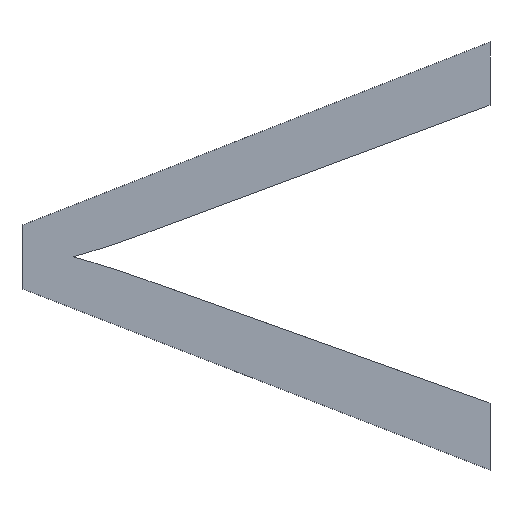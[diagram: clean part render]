
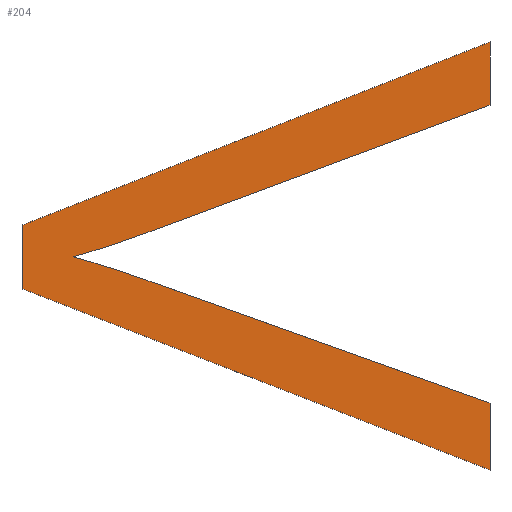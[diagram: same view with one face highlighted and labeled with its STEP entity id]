
A CAD part, top view. The second image highlights one B-rep face of the part: STEP entity #204.
In plain terms, the highlighted planar face has unit normal (0, 0, 1).
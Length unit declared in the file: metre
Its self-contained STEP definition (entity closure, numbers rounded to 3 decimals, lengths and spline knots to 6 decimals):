
#12=CIRCLE('',#214,0.002284);
#14=CIRCLE('',#217,0.002066);
#63=ORIENTED_EDGE('',*,*,#97,.T.);
#64=ORIENTED_EDGE('',*,*,#72,.T.);
#65=ORIENTED_EDGE('',*,*,#76,.T.);
#66=ORIENTED_EDGE('',*,*,#79,.T.);
#67=ORIENTED_EDGE('',*,*,#82,.T.);
#68=ORIENTED_EDGE('',*,*,#85,.T.);
#69=ORIENTED_EDGE('',*,*,#88,.T.);
#70=ORIENTED_EDGE('',*,*,#91,.T.);
#71=ORIENTED_EDGE('',*,*,#94,.T.);
#72=EDGE_CURVE('',#99,#100,#117,.T.);
#76=EDGE_CURVE('',#100,#103,#121,.F.);
#79=EDGE_CURVE('',#103,#105,#124,.T.);
#82=EDGE_CURVE('',#105,#107,#12,.F.);
#85=EDGE_CURVE('',#107,#109,#14,.F.);
#88=EDGE_CURVE('',#109,#111,#129,.T.);
#91=EDGE_CURVE('',#111,#113,#132,.F.);
#94=EDGE_CURVE('',#113,#115,#135,.T.);
#97=EDGE_CURVE('',#115,#99,#138,.T.);
#99=VERTEX_POINT('',#283);
#100=VERTEX_POINT('',#284);
#103=VERTEX_POINT('',#292);
#105=VERTEX_POINT('',#298);
#107=VERTEX_POINT('',#304);
#109=VERTEX_POINT('',#310);
#111=VERTEX_POINT('',#316);
#113=VERTEX_POINT('',#322);
#115=VERTEX_POINT('',#328);
#117=LINE('',#282,#140);
#121=LINE('',#291,#144);
#124=LINE('',#297,#147);
#129=LINE('',#315,#152);
#132=LINE('',#321,#155);
#135=LINE('',#327,#158);
#138=LINE('',#333,#161);
#140=VECTOR('',#229,1.);
#144=VECTOR('',#235,1.);
#147=VECTOR('',#240,1.);
#152=VECTOR('',#259,1.);
#155=VECTOR('',#264,1.);
#158=VECTOR('',#269,1.);
#161=VECTOR('',#274,1.);
#173=EDGE_LOOP('',(#63,#64,#65,#66,#67,#68,#69,#70,#71));
#184=FACE_BOUND('',#173,.T.);
#193=PLANE('',#224);
#204=ADVANCED_FACE('',(#184),#193,.F.);
#214=AXIS2_PLACEMENT_3D('',#303,#245,#246);
#217=AXIS2_PLACEMENT_3D('',#309,#252,#253);
#224=AXIS2_PLACEMENT_3D('',#336,#278,#279);
#229=DIRECTION('',(0.932,-0.361,0.));
#235=DIRECTION('',(0.,-1.,0.));
#240=DIRECTION('',(-0.942,0.337,0.));
#245=DIRECTION('',(0.,0.,-1.));
#246=DIRECTION('',(-1.,0.,0.));
#252=DIRECTION('',(0.,0.,-1.));
#253=DIRECTION('',(-1.,0.,0.));
#259=DIRECTION('',(0.937,0.349,0.));
#264=DIRECTION('',(0.,-1.,0.));
#269=DIRECTION('',(-0.931,-0.365,0.));
#274=DIRECTION('',(0.,-1.,0.));
#278=DIRECTION('',(0.,0.,-1.));
#279=DIRECTION('',(0.,-1.,0.));
#282=CARTESIAN_POINT('',(-0.036413,-0.003884,-0.03));
#283=CARTESIAN_POINT('',(-0.036413,-0.003884,-0.03));
#284=CARTESIAN_POINT('',(-0.035413,-0.004271,-0.03));
#291=CARTESIAN_POINT('',(-0.035413,0.,-0.03));
#292=CARTESIAN_POINT('',(-0.035413,-0.004128,-0.03));
#297=CARTESIAN_POINT('',(-0.035413,-0.004128,-0.03));
#298=CARTESIAN_POINT('',(-0.036139,-0.003868,-0.03));
#303=CARTESIAN_POINT('',(-0.036918,-0.006015,-0.03));
#304=CARTESIAN_POINT('',(-0.036303,-0.003815,-0.03));
#309=CARTESIAN_POINT('',(-0.036866,-0.001828,-0.03));
#310=CARTESIAN_POINT('',(-0.036139,-0.003762,-0.03));
#315=CARTESIAN_POINT('',(-0.036139,-0.003762,-0.03));
#316=CARTESIAN_POINT('',(-0.035413,-0.003491,-0.03));
#321=CARTESIAN_POINT('',(-0.035413,0.,-0.03));
#322=CARTESIAN_POINT('',(-0.035413,-0.003356,-0.03));
#327=CARTESIAN_POINT('',(-0.035413,-0.003356,-0.03));
#328=CARTESIAN_POINT('',(-0.036413,-0.003748,-0.03));
#333=CARTESIAN_POINT('',(-0.036413,0.,-0.03));
#336=CARTESIAN_POINT('',(-0.035913,0.,-0.03));
